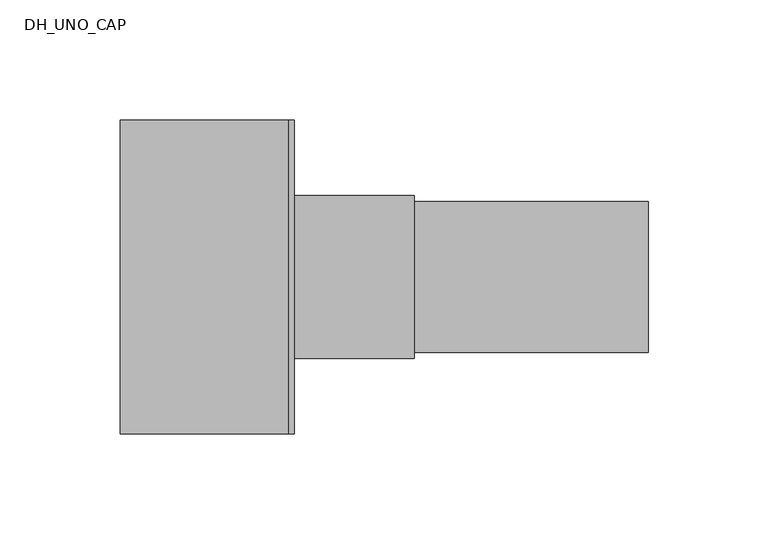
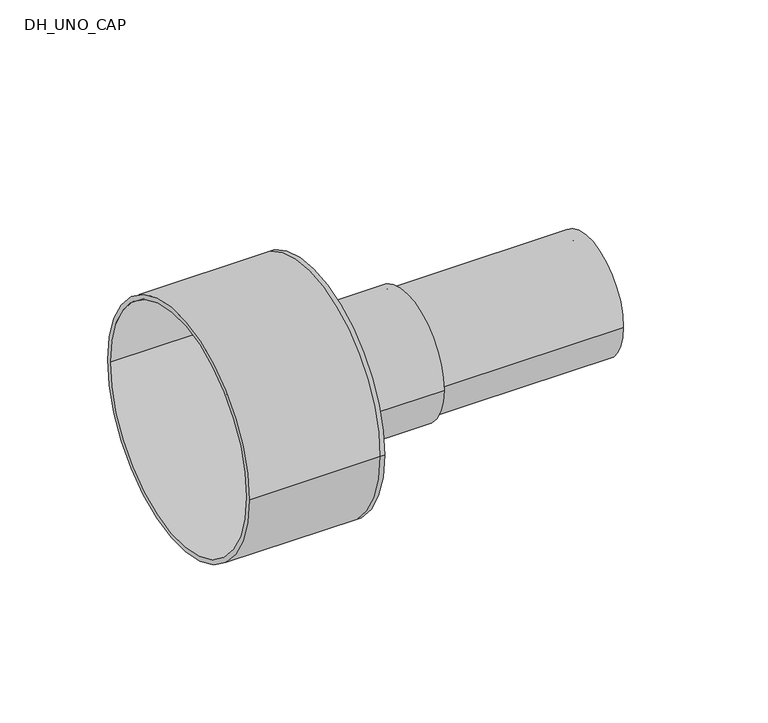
"""IFC4 building model written with IfcOpenShell, lengths in millimetres: pipe fitting geometry, DH_UNO_CAP : RAUTHERMEX UNO 11 COOL - Rubber Cap."""

from ifc_helpers import new_model, si_unit, point, frame, origin, origin_2d, place, context, project, spatial, polyline, circle_curve, trimmed, segment, composite_curve, outline, extrude, source, transform, mapped, element, save
from ifc_brep_helpers import plane_surface, cylinder_surface, revolved_surface, advanced_brep


def dh_uno_cap_96114e43(model_context):
    return source(origin(), model_context, "Body", "SolidModel", [
        extrude(outline(composite_curve([segment(trimmed(circle_curve(origin_2d(), 31.5), [point((-31.5, 0.0))], [point((31.5, 0.0))], False, "CARTESIAN"), True, "CONTINUOUS"), segment(trimmed(circle_curve(origin_2d(), 31.5), [point((31.5, 0.0))], [point((-31.5, 0.0))], False, "CARTESIAN"), True, "CONTINUOUS")], self_intersect=False), holes=[composite_curve([segment(trimmed(circle_curve(origin_2d(), 25.7), [point((-25.7, 0.0))], [point((25.7, 0.0))], True, "CARTESIAN"), True, "CONTINUOUS"), segment(trimmed(circle_curve(origin_2d(), 25.7), [point((25.7, 0.0))], [point((-25.7, 0.0))], True, "CARTESIAN"), True, "CONTINUOUS")], self_intersect=False)]), frame((0.0, 0.0, 0.0), z_axis=(1.0, 0.0, 0.0), x_axis=(0.0, 1.0, 0.0)), (0.0, 0.0, 1.0), 150.0),
        advanced_brep(
        [(-70.0, -65.5, 0.0), (-70.0, 65.5, 0.0), (-70.0, -63.0, 0.0), (-70.0, 63.0, 0.0), (0.0, -63.0, 0.0), (0.0, 63.0, 0.0), (0.0, -65.5, 0.0), (0.0, 65.5, 0.0), (0.0, 31.5, 0.0), (0.0, -31.5, 0.0), (2.5, -65.5, 0.0), (2.5, 65.5, 0.0), (2.5, -31.5, 0.0), (2.5, 31.5, 0.0)],
        [
            (0, 1, circle_curve(frame((-70.0, 0.0, 0.0), z_axis=(-1.0, 0.0, 0.0), x_axis=(0.0, 1.0, 0.0)), 65.5)),
            (1, 0, circle_curve(frame((-70.0, 0.0, 0.0), z_axis=(-1.0, 0.0, 0.0), x_axis=(0.0, 1.0, 0.0)), 65.5)),
            (2, 3, circle_curve(frame((-70.0, 0.0, 0.0), z_axis=(1.0, 0.0, 0.0), x_axis=(0.0, 1.0, 0.0)), 63.0)),
            (3, 2, circle_curve(frame((-70.0, 0.0, 0.0), z_axis=(1.0, 0.0, 0.0), x_axis=(0.0, 1.0, 0.0)), 63.0)),
            (2, 4),
            (4, 5, circle_curve(frame((0.0, 0.0, 0.0), z_axis=(1.0, 0.0, 0.0), x_axis=(0.0, 1.0, 0.0)), 63.0)),
            (5, 3),
            (5, 4, circle_curve(frame((0.0, 0.0, 0.0), z_axis=(1.0, 0.0, 0.0), x_axis=(0.0, 1.0, 0.0)), 63.0)),
            (0, 6),
            (6, 7, circle_curve(frame((0.0, 0.0, 0.0), z_axis=(-1.0, 0.0, 0.0), x_axis=(0.0, 1.0, 0.0)), 65.5)),
            (7, 1),
            (7, 6, circle_curve(frame((0.0, 0.0, 0.0), z_axis=(-1.0, 0.0, 0.0), x_axis=(0.0, 1.0, 0.0)), 65.5)),
            (8, 9, circle_curve(frame((0.0, 0.0, 0.0), z_axis=(1.0, 0.0, 0.0), x_axis=(0.0, 1.0, 0.0)), 31.5)),
            (9, 8, circle_curve(frame((0.0, 0.0, 0.0), z_axis=(1.0, 0.0, 0.0), x_axis=(0.0, 1.0, 0.0)), 31.5)),
            (10, 11, circle_curve(frame((2.5, 0.0, 0.0), z_axis=(1.0, 0.0, 0.0), x_axis=(0.0, 1.0, 0.0)), 65.5)),
            (11, 10, circle_curve(frame((2.5, 0.0, 0.0), z_axis=(1.0, 0.0, 0.0), x_axis=(0.0, 1.0, 0.0)), 65.5)),
            (12, 13, circle_curve(frame((2.5, 0.0, 0.0), z_axis=(-1.0, 0.0, 0.0), x_axis=(0.0, 1.0, 0.0)), 31.5)),
            (13, 12, circle_curve(frame((2.5, 0.0, 0.0), z_axis=(-1.0, 0.0, 0.0), x_axis=(0.0, 1.0, 0.0)), 31.5)),
            (11, 7),
            (6, 10),
            (8, 13),
            (12, 9),
        ],
        [
            plane_surface(frame((-70.0, 0.0, 0.0), z_axis=(-1.0, 0.0, 0.0), x_axis=(0.0, 0.0, 1.0))),
            revolved_surface(polyline([(0.0, 63.0, 0.0), (-70.0, 63.0, 0.0)]), (-70.0, 0.0, 0.0), (1.0, 0.0, 0.0)),
            cylinder_surface(frame((-70.0, 0.0, 0.0), z_axis=(-1.0, 0.0, 0.0), x_axis=(0.0, 1.0, 0.0)), 65.5),
            plane_surface(frame((0.0, 0.0, 0.0), z_axis=(-1.0, 0.0, 0.0), x_axis=(0.0, 0.0, 1.0))),
            plane_surface(frame((2.5, 0.0, 0.0), z_axis=(1.0, 0.0, 0.0), x_axis=(0.0, 0.0, 1.0))),
            cylinder_surface(frame((0.0, 0.0, 0.0), z_axis=(-1.0, 0.0, 0.0), x_axis=(0.0, 1.0, 0.0)), 65.5),
            revolved_surface(polyline([(0.0, 31.5, 0.0), (2.5, 31.5, 0.0)]), (0.0, 0.0, 0.0), (-1.0, 0.0, 0.0)),
        ],
        [
            (0, [[1, 2], [3, 4]]),
            (1, [[-3, 5, 6, 7]]),
            (1, [[-4, -7, 8, -5]]),
            (2, [[-1, 9, 10, 11]]),
            (2, [[-2, -11, 12, -9]]),
            (3, [[-6, -8], [13, 14]]),
            (4, [[15, 16], [17, 18]]),
            (5, [[-16, 19, -10, 20]]),
            (5, [[-15, -20, -12, -19]]),
            (6, [[21, -17, 22, -13]]),
            (6, [[-21, -14, -22, -18]]),
        ],
    ),
        extrude(outline(composite_curve([segment(trimmed(circle_curve(origin_2d(), 34.0), [point((-34.0, 0.0))], [point((34.0, 0.0))], False, "CARTESIAN"), True, "CONTINUOUS"), segment(trimmed(circle_curve(origin_2d(), 34.0), [point((34.0, 0.0))], [point((-34.0, 0.0))], False, "CARTESIAN"), True, "CONTINUOUS")], self_intersect=False), holes=[composite_curve([segment(trimmed(circle_curve(origin_2d(), 31.5), [point((-31.5, 0.0))], [point((31.5, 0.0))], True, "CARTESIAN"), True, "CONTINUOUS"), segment(trimmed(circle_curve(origin_2d(), 31.5), [point((31.5, 0.0))], [point((-31.5, 0.0))], True, "CARTESIAN"), True, "CONTINUOUS")], self_intersect=False)]), frame((2.5, 0.0, 0.0), z_axis=(1.0, 0.0, 0.0), x_axis=(0.0, 1.0, 0.0)), (0.0, 0.0, 1.0), 50.0),
    ])


if __name__ == "__main__":
    model = new_model("IFC4")
    model_context = context("Model", 3, world=origin())
    ifc_project = project(units=[si_unit("LENGTHUNIT", "METRE", prefix="MILLI")], contexts=[model_context])
    site = spatial("IfcSite", under=ifc_project)
    building = spatial("IfcBuilding", under=site)
    placement = place(None, origin())
    dh_uno_cap_shape = dh_uno_cap_96114e43(model_context)
    element("IfcPipeFitting", 1, ObjectType="DH_UNO_CAP : RAUTHERMEX UNO 11 COOL - Rubber Cap", at=placement, inside=building, context=model_context, shape_type="MappedRepresentation", body=[
        mapped(dh_uno_cap_shape, transform((0.0, 0.0, 0.0), x_axis=(1.0, 0.0, 0.0), y_axis=(0.0, 1.0, 0.0), z_axis=(0.0, 0.0, 1.0))),
    ])
    save(model, "model.ifc")
